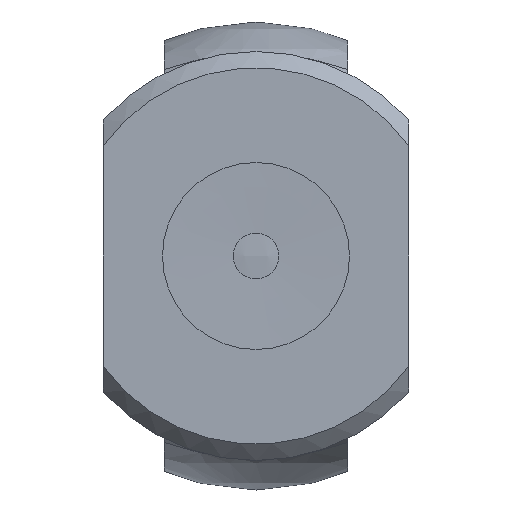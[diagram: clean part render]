
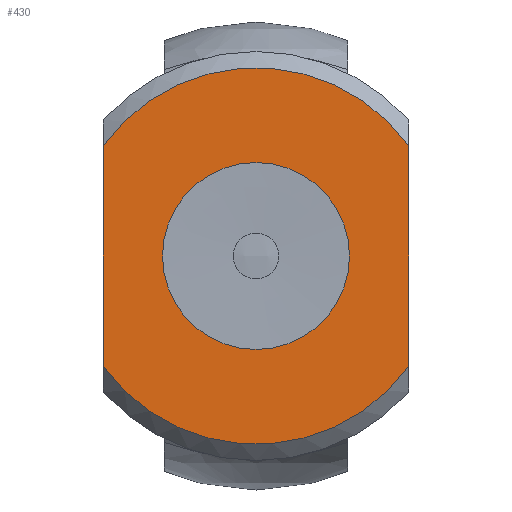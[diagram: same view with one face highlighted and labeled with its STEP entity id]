
A CAD part, front view. The second image highlights one B-rep face of the part: STEP entity #430.
In plain terms, the highlighted planar face has unit normal (0, -1, 0).
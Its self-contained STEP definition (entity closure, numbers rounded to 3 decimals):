
#60=CIRCLE('',#474,18.5);
#65=CIRCLE('',#488,18.5);
#66=CIRCLE('',#490,9.188);
#139=ORIENTED_EDGE('',*,*,#230,.T.);
#140=ORIENTED_EDGE('',*,*,#229,.F.);
#141=ORIENTED_EDGE('',*,*,#220,.T.);
#142=ORIENTED_EDGE('',*,*,#212,.F.);
#143=ORIENTED_EDGE('',*,*,#231,.T.);
#212=EDGE_CURVE('',#261,#262,#60,.T.);
#220=EDGE_CURVE('',#266,#262,#296,.T.);
#229=EDGE_CURVE('',#266,#271,#65,.T.);
#230=EDGE_CURVE('',#261,#271,#299,.T.);
#231=EDGE_CURVE('',#272,#272,#66,.T.);
#261=VERTEX_POINT('',#722);
#262=VERTEX_POINT('',#724);
#266=VERTEX_POINT('',#742);
#271=VERTEX_POINT('',#766);
#272=VERTEX_POINT('',#771);
#296=LINE('',#741,#314);
#299=LINE('',#769,#317);
#314=VECTOR('',#580,1000.);
#317=VECTOR('',#597,1000.);
#335=EDGE_LOOP('',(#139,#140,#141,#142));
#336=EDGE_LOOP('',(#143));
#379=FACE_BOUND('',#335,.T.);
#380=FACE_BOUND('',#336,.T.);
#412=PLANE('',#489);
#430=ADVANCED_FACE('',(#379,#380),#412,.T.);
#474=AXIS2_PLACEMENT_3D('',#723,#560,#561);
#488=AXIS2_PLACEMENT_3D('',#767,#593,#594);
#489=AXIS2_PLACEMENT_3D('',#768,#595,#596);
#490=AXIS2_PLACEMENT_3D('',#770,#598,#599);
#560=DIRECTION('',(0.,1.,0.));
#561=DIRECTION('',(1.,0.,0.));
#580=DIRECTION('',(0.,0.,1.));
#593=DIRECTION('',(0.,1.,0.));
#594=DIRECTION('',(1.,0.,0.));
#595=DIRECTION('',(0.,-1.,0.));
#596=DIRECTION('',(-1.,0.,0.));
#597=DIRECTION('',(0.,0.,-1.));
#598=DIRECTION('',(0.,1.,0.));
#599=DIRECTION('',(1.,0.,0.));
#722=CARTESIAN_POINT('',(-15.,-77.,10.828));
#723=CARTESIAN_POINT('',(0.,-77.,0.));
#724=CARTESIAN_POINT('',(15.,-77.,10.828));
#741=CARTESIAN_POINT('',(15.,-77.,0.));
#742=CARTESIAN_POINT('',(15.,-77.,-10.828));
#766=CARTESIAN_POINT('',(-15.,-77.,-10.828));
#767=CARTESIAN_POINT('',(0.,-77.,0.));
#768=CARTESIAN_POINT('',(9.25,-77.,0.));
#769=CARTESIAN_POINT('',(-15.,-77.,0.));
#770=CARTESIAN_POINT('',(0.,-77.,0.));
#771=CARTESIAN_POINT('',(9.188,-77.,0.));
